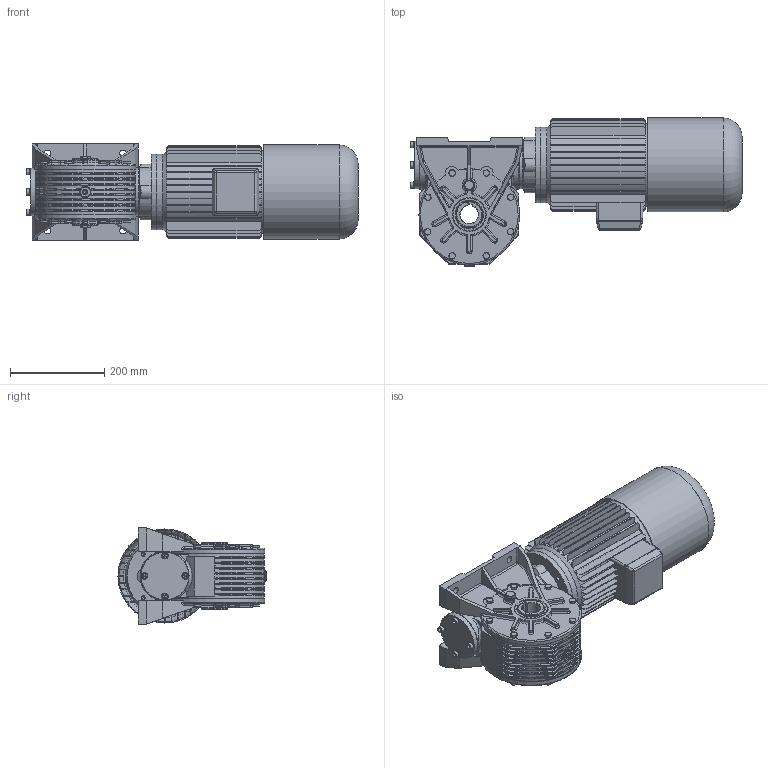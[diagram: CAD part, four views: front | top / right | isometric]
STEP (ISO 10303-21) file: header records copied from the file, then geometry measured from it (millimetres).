
FILE_DESCRIPTION((''),'2;1');
FILE_NAME('Y:\Archivi Inventor\Prog_01\GRAND_50\complessivi\Figurini\MRV50 sito\100l_autofrenante\mrv50_P1_100_B14.stp','2013-02-08T10:41:59',('tech3'),(''),'Autodesk Inventor 2013','Autodesk Inventor 2013','');
FILE_SCHEMA(('AUTOMOTIVE_DESIGN { 1 0 10303 214 1 1 1 1 }'));
Length unit declared in the file: millimetre
Products named in the file (18): mrv50_100_112_b14; mrv50_fig; Figurino_carcassa_MRV50; 0105028; 0105029; figurino_corona_MRV50; figurino_0105010; Guarnizione 3_8 GAS; Tappo 3_8 GAS_esagn_incsst; Tappo3_8 GAS; figurino_0105009; ISO 4017 M8 x 20; 55_70_8; UNI 6592 8.4 x 14; UNI 5931  M 8 x  25; 0105006; DIN EN ISO 4762 M8 x 20; motori B14 brake 100
Assembly tree (50 placements, depth 3):
  mrv50_100_112_b14
    mrv50_fig
      Figurino_carcassa_MRV50
      0105028  x2
      0105029  x2
      figurino_corona_MRV50
      figurino_0105010  x2
      Guarnizione 3_8 GAS  x4
      Tappo 3_8 GAS_esagn_incsst  x2
      Tappo3_8 GAS  x2
      figurino_0105009
      ISO 4017 M8 x 20  x16
      55_70_8  x2
      UNI 6592 8.4 x 14  x4
      UNI 5931  M 8 x  25  x4
    0105006
    DIN EN ISO 4762 M8 x 20  x4
    motori B14 brake 100
Bounding box: 702.8 x 313.5 x 203.7 mm (x, y, z)
Volume: 12632835.2 mm3; surface area: 1515406.3 mm2
Topology: 62 solids, 64 shells, 2238 faces, 5317 edges, 3124 vertices
Faces by surface type: plane 936, cylinder 672, cone 219, torus 179, bspline 162, sphere 70
Full cylindrical faces by diameter (mm): 2 x2, 5 x1, 6.647 x28, 8 x26, 8.4 x4, 8.5 x52, 11.63 x16, 13 x12, 13.046 x2, 14 x8, 14.95 x4, 16.3 x4, 16.5 x2, 22 x8, 24 x2, 28 x1, 55 x1, 60 x1, 66.4 x2, 69 x2, 70 x5, 72 x4, 73 x2, 75 x1, 99.5 x2, 100 x1, 101 x1, 102 x2, 110 x2, 120 x1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
Entity records: 52913 total; most frequent: CARTESIAN_POINT 17140, DIRECTION 7476, ORIENTED_EDGE 6836, EDGE_CURVE 3418, AXIS2_PLACEMENT_3D 2950, VERTEX_POINT 2172, EDGE_LOOP 1908, VECTOR 1576
